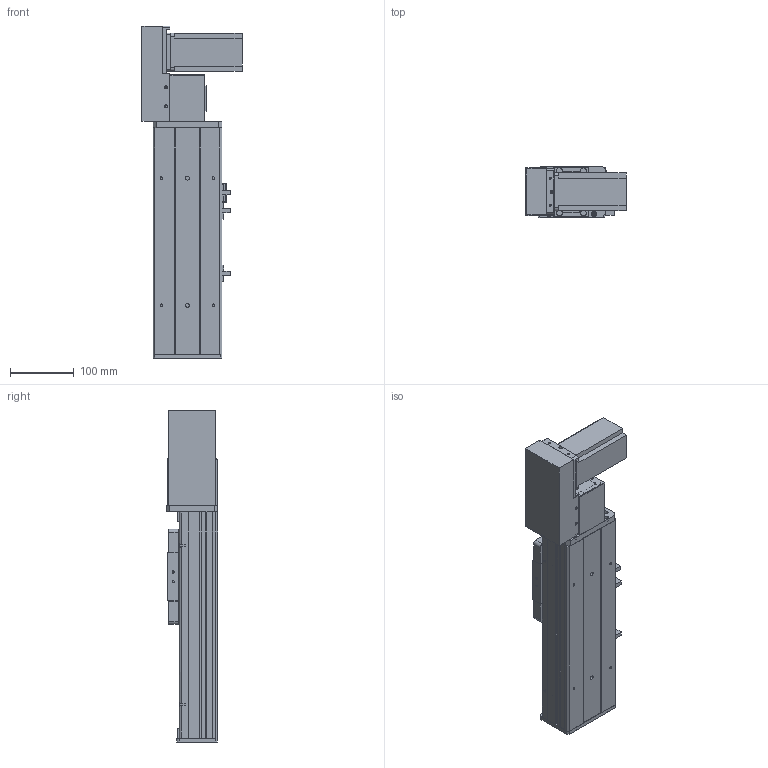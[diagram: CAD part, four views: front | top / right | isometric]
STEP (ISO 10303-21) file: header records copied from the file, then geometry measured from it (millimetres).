
FILE_DESCRIPTION (( 'STEP AP203' ), '1' );
FILE_NAME ('Y10CB-D90-S100-BL-P400W.STEP', '2020-02-15T07:17:46', ( '微软用户' ), ( '微软中国' ), 'SwSTEP 2.0', 'SolidWorks 2017', '' );
FILE_SCHEMA (( 'CONFIG_CONTROL_DESIGN' ));
Length unit declared in the file: millimetre
Products named in the file (18): 10CB-詩湍-; Y10B-々湍喘謫眊楊擘啣--; Y10CB- 掛极耜裔啣-毀---; Y10B--々湍喘謫眊--666; Y10C---詩湍揤啣; Y10B-耜蚾蟀諉啣----; 10CB9-掛极; 0B-萇儂楊擘啣; 10CB-耜裔; san松下电机400不带刹车----; Y135C-陔俋离換覜結え-; 0B-源倛裔啣; Y100-135俋离換覜ん--; 0B-埴倛裔啣; 0CB-雄赽釱---; Y10CB-D90-S100-BL-P400W; Y俋欶BR----; 0Cb-俋欶---
Assembly tree (21 placements, depth 2):
  Y10CB-D90-S100-BL-P400W
    0CB-雄赽釱---
    0Cb-俋欶---
    Y10B-々湍喘謫眊楊擘啣--
    Y10B--々湍喘謫眊--666
    Y10B-耜蚾蟀諉啣----
    0B-萇儂楊擘啣
    san松下电机400不带刹车----
    0B-源倛裔啣
    0B-埴倛裔啣
    Y俋欶BR----
    10CB-詩湍-
    Y10CB- 掛极耜裔啣-毀---  x2
    Y10C---詩湍揤啣  x2
    10CB9-掛极
    10CB-耜裔
    Y135C-陔俋离換覜結え-
    Y100-135俋离換覜ん--  x3
Bounding box: 157.5 x 80.5 x 522.5 mm (x, y, z)
Volume: 1566553.1 mm3; surface area: 620220.7 mm2
Topology: 21 solids, 21 shells, 972 faces, 2557 edges, 1686 vertices
Faces by surface type: plane 477, cylinder 471, cone 24
Entity records: 29317 total; most frequent: CARTESIAN_POINT 4959, DIRECTION 4803, ORIENTED_EDGE 4494, EDGE_CURVE 2247, AXIS2_PLACEMENT_3D 1726, VERTEX_POINT 1482, LINE 1351, VECTOR 1351
